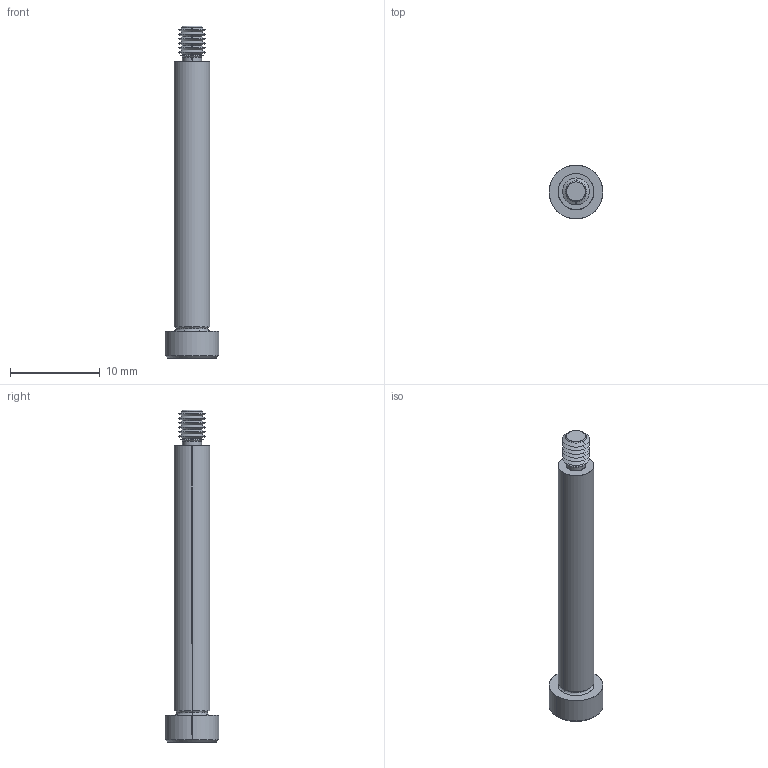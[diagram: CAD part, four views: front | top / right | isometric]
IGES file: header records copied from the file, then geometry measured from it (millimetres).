
Start section: SolidWorks IGES file using analytic representation for surfaces
Global section: file name: C:\Users\IanO\Documents\Temp Folder\GENERAL\SCREW REVISION\P0130_v2\P0130.T5_v2_20220106_IGES\P0130.040-030-T5.igs; native system: SolidWorks 2019; preprocessor: SolidWorks 2019; author: IanO; date: 220106.220943; units: millimetre
Bounding box: 6 x 6 x 37 mm (x, y, z)
Surface area: 561.9 mm2 (no closed solid volume)
Topology: 0 solids, 0 shells, 68 faces, 520 edges, 518 vertices
Faces by surface type: revolution 48, bspline 20
